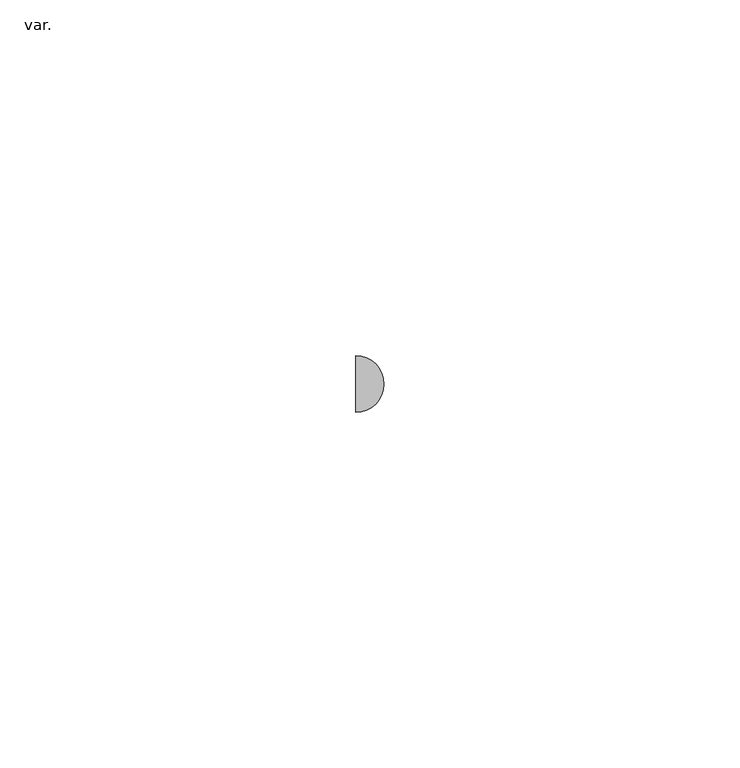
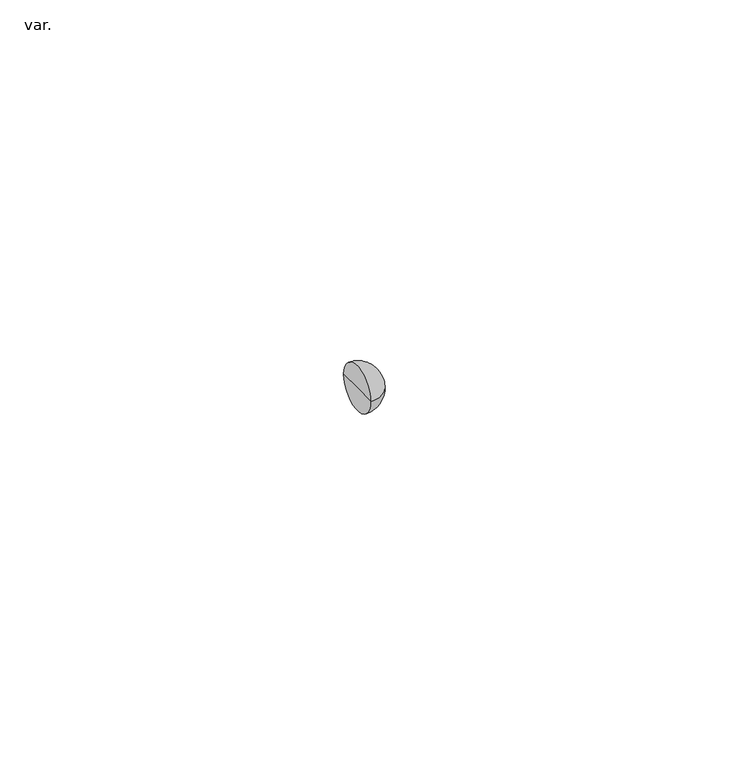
"""IFC4 building model written with IfcOpenShell, lengths in millimetres: pipe fitting geometry, NLRS_52_PIF_UN_Vacurain Flex multi reducer_Dyka : var.."""

from ifc_helpers import new_model, si_unit, point, frame, origin, origin_with_axes, place, context, project, spatial, circle_curve, ellipse_curve, trimmed, source, transform, mapped, element, save
from ifc_brep_helpers import plane_surface, revolved_surface, advanced_brep


def var_8dcc252d(model_context):
    return source(origin(), model_context, "Body", "AdvancedBrep", [
        advanced_brep(
        [(0.0, -4.0, 0.0), (0.0, 4.0, 0.0), (4.0, 0.0, 0.0), (0.0, 0.0, 0.0)],
        [
            (0, 1, circle_curve(frame((0.0, 0.0, 0.0), z_axis=(1.0, 0.0, 0.0), x_axis=(0.0, 1.0, 0.0)), 4.0)),
            (1, 2, circle_curve(frame((0.0, 0.0, 0.0), z_axis=(0.0, 0.0, -1.0), x_axis=(1.0, 0.0, 0.0)), 4.0)),
            (2, 0, circle_curve(frame((0.0, 0.0, 0.0), z_axis=(0.0, 0.0, -1.0), x_axis=(1.0, 0.0, 0.0)), 4.0)),
            (1, 0, circle_curve(frame((0.0, 0.0, 0.0), z_axis=(1.0, 0.0, 0.0), x_axis=(0.0, 1.0, 0.0)), 4.0)),
            (3, 1),
            (0, 3),
        ],
        [
            revolved_surface(trimmed(ellipse_curve(origin_with_axes(), 4.0, 4.0), [point((4.0, 0.0, 0.0))], [point((0.0, 4.0, 0.0))], True, "CARTESIAN"), (0.8389857, 0.0, 0.0), (-1.0, 0.0, 0.0)),
            plane_surface(frame((0.0, 0.0, 0.0), z_axis=(-1.0, 0.0, 0.0), x_axis=(0.0, 1.0, 0.0))),
        ],
        [
            (0, [[1, 2, 3]]),
            (0, [[4, -3, -2]]),
            (1, [[5, -1, 6]]),
            (1, [[-6, -4, -5]]),
        ],
    ),
    ])


if __name__ == "__main__":
    model = new_model("IFC4")
    model_context = context("Model", 3, world=origin())
    ifc_project = project(units=[si_unit("LENGTHUNIT", "METRE", prefix="MILLI")], contexts=[model_context])
    site = spatial("IfcSite", under=ifc_project)
    building = spatial("IfcBuilding", under=site)
    placement = place(None, origin())
    var_shape = var_8dcc252d(model_context)
    element("IfcPipeFitting", 1, ObjectType="NLRS_52_PIF_UN_Vacurain Flex multi reducer_Dyka : var.", at=placement, inside=building, context=model_context, shape_type="MappedRepresentation", body=[
        mapped(var_shape, transform((0.0, 0.0, 0.0), x_axis=(1.0, 0.0, 0.0), y_axis=(0.0, 1.0, 0.0), z_axis=(0.0, 0.0, 1.0))),
    ])
    save(model, "model.ifc")
